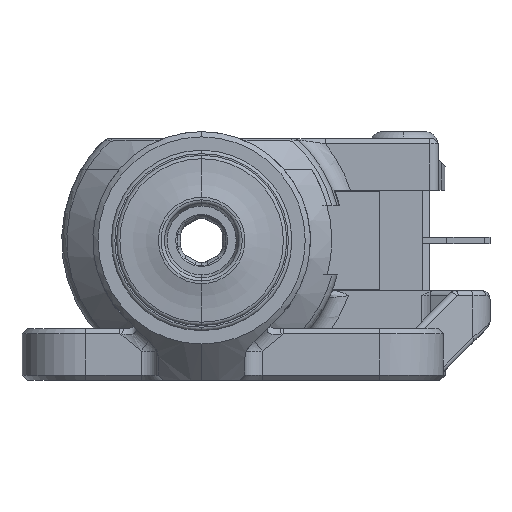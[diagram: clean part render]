
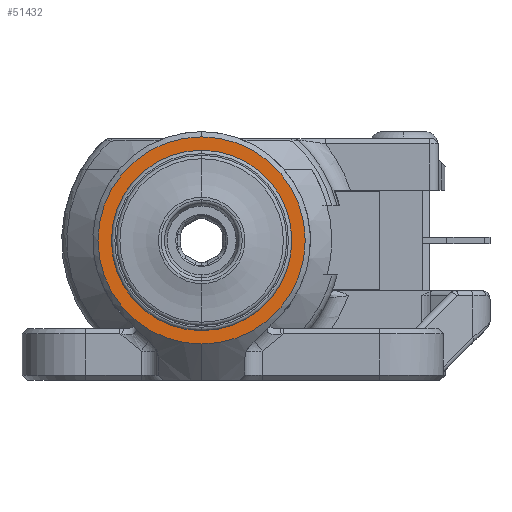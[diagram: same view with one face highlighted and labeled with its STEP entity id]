
A CAD part, left-side view. The second image highlights one B-rep face of the part: STEP entity #51432.
In plain terms, the highlighted planar face has unit normal (-1, 0, 0).
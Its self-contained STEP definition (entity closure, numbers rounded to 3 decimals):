
#808 = DIRECTION ( 'NONE',  ( 0., -0.866, 0.5 ) ) ;
#1964 = VERTEX_POINT ( 'NONE', #38035 ) ;
#2564 = DIRECTION ( 'NONE',  ( 1., 0., 0. ) ) ;
#2735 = ORIENTED_EDGE ( 'NONE', *, *, #51489, .T. ) ;
#4209 = VERTEX_POINT ( 'NONE', #53838 ) ;
#5511 = CARTESIAN_POINT ( 'NONE',  ( 0., 0., 6. ) ) ;
#6195 = VECTOR ( 'NONE', #44165, 1000. ) ;
#7441 = DIRECTION ( 'NONE',  ( 0., 0., 1. ) ) ;
#7775 = CIRCLE ( 'NONE', #45668, 6. ) ;
#8016 = VECTOR ( 'NONE', #48860, 1000. ) ;
#10335 = ORIENTED_EDGE ( 'NONE', *, *, #34935, .T. ) ;
#13135 = VECTOR ( 'NONE', #808, 1000. ) ;
#13294 = ORIENTED_EDGE ( 'NONE', *, *, #54587, .T. ) ;
#14132 = CARTESIAN_POINT ( 'NONE',  ( 0., 0.979, 4.746 ) ) ;
#14144 = ORIENTED_EDGE ( 'NONE', *, *, #41525, .T. ) ;
#15664 = DIRECTION ( 'NONE',  ( 0., 0., 1. ) ) ;
#18220 = EDGE_CURVE ( 'NONE', #53821, #27603, #40464, .T. ) ;
#18482 = CARTESIAN_POINT ( 'NONE',  ( 0., -0.779, 4.8 ) ) ;
#20032 = EDGE_CURVE ( 'NONE', #36524, #22715, #30180, .T. ) ;
#22259 = CIRCLE ( 'NONE', #50857, 4.6 ) ;
#22715 = VERTEX_POINT ( 'NONE', #28733 ) ;
#24034 = FACE_OUTER_BOUND ( 'NONE', #37845, .T. ) ;
#25681 = CARTESIAN_POINT ( 'NONE',  ( 0., -2.3, 3.984 ) ) ;
#26315 = CARTESIAN_POINT ( 'NONE',  ( 0., 0.886, 4.8 ) ) ;
#27603 = VERTEX_POINT ( 'NONE', #26315 ) ;
#28733 = CARTESIAN_POINT ( 'NONE',  ( 0., 0., -6. ) ) ;
#29363 = CARTESIAN_POINT ( 'NONE',  ( 0., 2.3, 3.984 ) ) ;
#30016 = LINE ( 'NONE', #25681, #6195 ) ;
#30180 = CIRCLE ( 'NONE', #54190, 6. ) ;
#32708 = PLANE ( 'NONE',  #48114 ) ;
#34106 = CARTESIAN_POINT ( 'NONE',  ( 0., 0., 0. ) ) ;
#34935 = EDGE_CURVE ( 'NONE', #22715, #36524, #7775, .T. ) ;
#36524 = VERTEX_POINT ( 'NONE', #5511 ) ;
#37845 = EDGE_LOOP ( 'NONE', ( #10335, #49068 ) ) ;
#37904 = DIRECTION ( 'NONE',  ( 0., 0., 1. ) ) ;
#38035 = CARTESIAN_POINT ( 'NONE',  ( 0., -0.886, 4.8 ) ) ;
#39906 = LINE ( 'NONE', #18482, #8016 ) ;
#40464 = LINE ( 'NONE', #14132, #13135 ) ;
#41373 = DIRECTION ( 'NONE',  ( -1., 0., 0. ) ) ;
#41525 = EDGE_CURVE ( 'NONE', #27603, #1964, #39906, .T. ) ;
#41660 = DIRECTION ( 'NONE',  ( 0., 0., 1. ) ) ;
#42215 = CARTESIAN_POINT ( 'NONE',  ( 0., 0., 0. ) ) ;
#44165 = DIRECTION ( 'NONE',  ( 0., -0.866, -0.5 ) ) ;
#45668 = AXIS2_PLACEMENT_3D ( 'NONE', #34106, #50848, #7441 ) ;
#46319 = CARTESIAN_POINT ( 'NONE',  ( 0., 0., 0. ) ) ;
#47890 = EDGE_LOOP ( 'NONE', ( #54499, #14144, #13294, #2735 ) ) ;
#48114 = AXIS2_PLACEMENT_3D ( 'NONE', #49767, #41373, #41660 ) ;
#48860 = DIRECTION ( 'NONE',  ( 0., -1., 0. ) ) ;
#49068 = ORIENTED_EDGE ( 'NONE', *, *, #20032, .T. ) ;
#49767 = CARTESIAN_POINT ( 'NONE',  ( 0., -6.3, 0. ) ) ;
#50602 = FACE_BOUND ( 'NONE', #47890, .T. ) ;
#50848 = DIRECTION ( 'NONE',  ( -1., 0., 0. ) ) ;
#50857 = AXIS2_PLACEMENT_3D ( 'NONE', #42215, #2564, #37904 ) ;
#51432 = ADVANCED_FACE ( 'NONE', ( #50602, #24034 ), #32708, .T. ) ;
#51489 = EDGE_CURVE ( 'NONE', #4209, #53821, #22259, .T. ) ;
#53821 = VERTEX_POINT ( 'NONE', #29363 ) ;
#53838 = CARTESIAN_POINT ( 'NONE',  ( 0., -2.3, 3.984 ) ) ;
#54190 = AXIS2_PLACEMENT_3D ( 'NONE', #46319, #55296, #15664 ) ;
#54499 = ORIENTED_EDGE ( 'NONE', *, *, #18220, .T. ) ;
#54587 = EDGE_CURVE ( 'NONE', #1964, #4209, #30016, .T. ) ;
#55296 = DIRECTION ( 'NONE',  ( -1., 0., 0. ) ) ;
